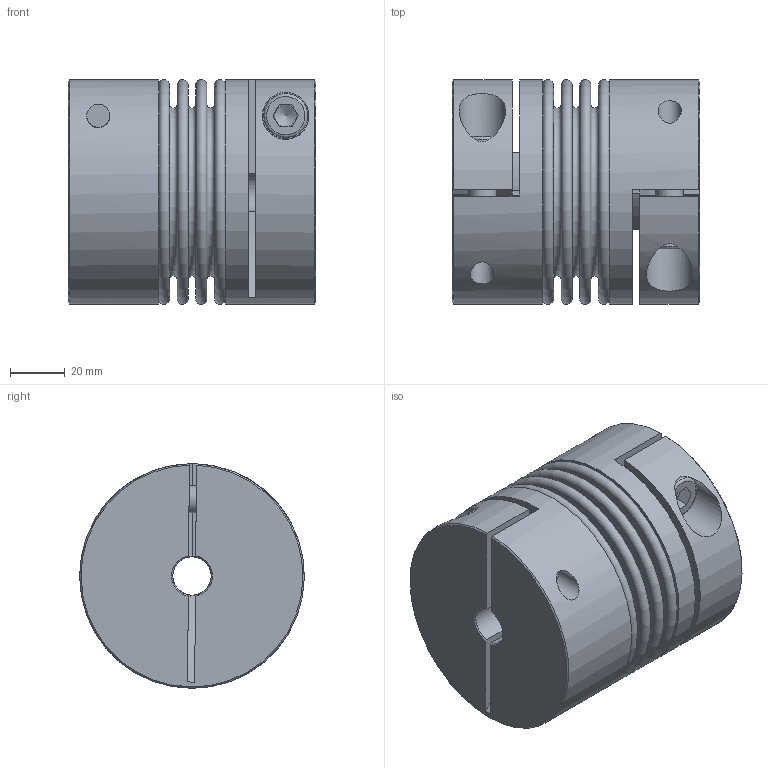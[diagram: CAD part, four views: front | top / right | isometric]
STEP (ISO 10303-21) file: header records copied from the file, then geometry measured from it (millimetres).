
FILE_DESCRIPTION( ( 'Unknown' ), '1' );
FILE_NAME( 'K:/Konstruktion/Homepage/KB4AL/KB4AL-80-91.stp', 'Unknown', ( 'Unknown' ), ( 'Unknown' ), 'PSStep 16.0.42', 'Unknown', ' ' );
FILE_SCHEMA( ( 'AUTOMOTIVE_DESIGN { 1 0 10303 214 1 1 1 1 }' ) );
Length unit declared in the file: millimetre
Products named in the file (4): Assem1; KN80-150_Standard_6; BK80-150_Standard_1; Socket Head Cap Screw_DIN_DIN 912 M10 x 30 --- 30N_6
Assembly tree (5 placements, depth 2):
  Assem1
    KN80-150_Standard_6  x2
    BK80-150_Standard_1
    Socket Head Cap Screw_DIN_DIN 912 M10 x 30 --- 30N_6  x2
Bounding box: 90.4 x 82 x 82 mm (x, y, z)
Volume: 327483.2 mm3; surface area: 107489.2 mm2
Topology: 5 solids, 5 shells, 124 faces, 272 edges, 178 vertices
Faces by surface type: plane 72, cylinder 24, torus 18, cone 10
Full cylindrical faces by diameter (mm): 8.5 x2, 10 x6, 14 x2, 16 x2, 17 x2, 70.7 x2, 71.9 x2, 82 x2
Entity records: 2835 total; most frequent: CARTESIAN_POINT 496, DIRECTION 361, ORIENTED_EDGE 250, AXIS2_PLACEMENT_3D 159, EDGE_LOOP 136, EDGE_CURVE 125, FACE_OUTER_BOUND 108, VERTEX_POINT 108
